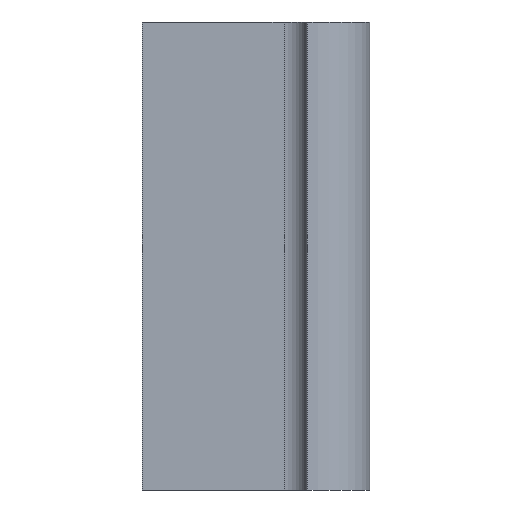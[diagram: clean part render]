
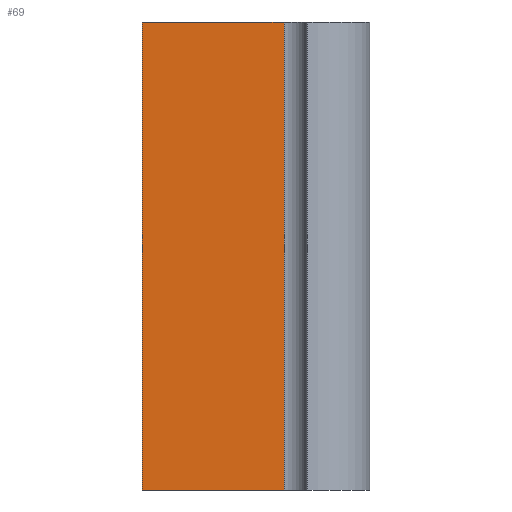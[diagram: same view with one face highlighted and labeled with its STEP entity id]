
A CAD part, front view. The second image highlights one B-rep face of the part: STEP entity #69.
In plain terms, the highlighted planar face has unit normal (0, -1, 0).
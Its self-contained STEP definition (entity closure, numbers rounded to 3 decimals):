
#39 = EDGE_CURVE ( 'NONE', #518, #458, #604, .T. ) ;
#55 = VECTOR ( 'NONE', #136, 1000. ) ;
#69 = ADVANCED_FACE ( 'NONE', ( #581 ), #373, .F. ) ;
#84 = CARTESIAN_POINT ( 'NONE',  ( -47.305, -4.885, 30. ) ) ;
#105 = DIRECTION ( 'NONE',  ( 0., 0., 1. ) ) ;
#127 = CARTESIAN_POINT ( 'NONE',  ( -47.305, -4.885, 0. ) ) ;
#136 = DIRECTION ( 'NONE',  ( 1., 0., 0. ) ) ;
#175 = AXIS2_PLACEMENT_3D ( 'NONE', #199, #453, #105 ) ;
#178 = ORIENTED_EDGE ( 'NONE', *, *, #345, .F. ) ;
#199 = CARTESIAN_POINT ( 'NONE',  ( -47.305, -4.885, 30. ) ) ;
#206 = EDGE_CURVE ( 'NONE', #329, #458, #304, .T. ) ;
#217 = CARTESIAN_POINT ( 'NONE',  ( -47.305, -4.885, 30. ) ) ;
#234 = EDGE_CURVE ( 'NONE', #280, #518, #544, .T. ) ;
#259 = CARTESIAN_POINT ( 'NONE',  ( -38.205, -4.885, 30. ) ) ;
#280 = VERTEX_POINT ( 'NONE', #217 ) ;
#285 = ORIENTED_EDGE ( 'NONE', *, *, #206, .F. ) ;
#304 = LINE ( 'NONE', #669, #588 ) ;
#322 = ORIENTED_EDGE ( 'NONE', *, *, #234, .T. ) ;
#329 = VERTEX_POINT ( 'NONE', #259 ) ;
#334 = EDGE_LOOP ( 'NONE', ( #377, #285, #178, #322 ) ) ;
#345 = EDGE_CURVE ( 'NONE', #280, #329, #517, .T. ) ;
#373 = PLANE ( 'NONE',  #175 ) ;
#376 = VECTOR ( 'NONE', #625, 1000. ) ;
#377 = ORIENTED_EDGE ( 'NONE', *, *, #39, .T. ) ;
#452 = CARTESIAN_POINT ( 'NONE',  ( -38.205, -4.885, 0. ) ) ;
#453 = DIRECTION ( 'NONE',  ( 0., 1., 0. ) ) ;
#458 = VERTEX_POINT ( 'NONE', #452 ) ;
#517 = LINE ( 'NONE', #567, #376 ) ;
#518 = VERTEX_POINT ( 'NONE', #127 ) ;
#523 = VECTOR ( 'NONE', #597, 1000. ) ;
#544 = LINE ( 'NONE', #84, #523 ) ;
#567 = CARTESIAN_POINT ( 'NONE',  ( -47.305, -4.885, 30. ) ) ;
#581 = FACE_OUTER_BOUND ( 'NONE', #334, .T. ) ;
#588 = VECTOR ( 'NONE', #654, 1000. ) ;
#597 = DIRECTION ( 'NONE',  ( 0., 0., -1. ) ) ;
#600 = CARTESIAN_POINT ( 'NONE',  ( -47.305, -4.885, 0. ) ) ;
#604 = LINE ( 'NONE', #600, #55 ) ;
#625 = DIRECTION ( 'NONE',  ( 1., 0., 0. ) ) ;
#654 = DIRECTION ( 'NONE',  ( 0., 0., -1. ) ) ;
#669 = CARTESIAN_POINT ( 'NONE',  ( -38.205, -4.885, 30. ) ) ;
